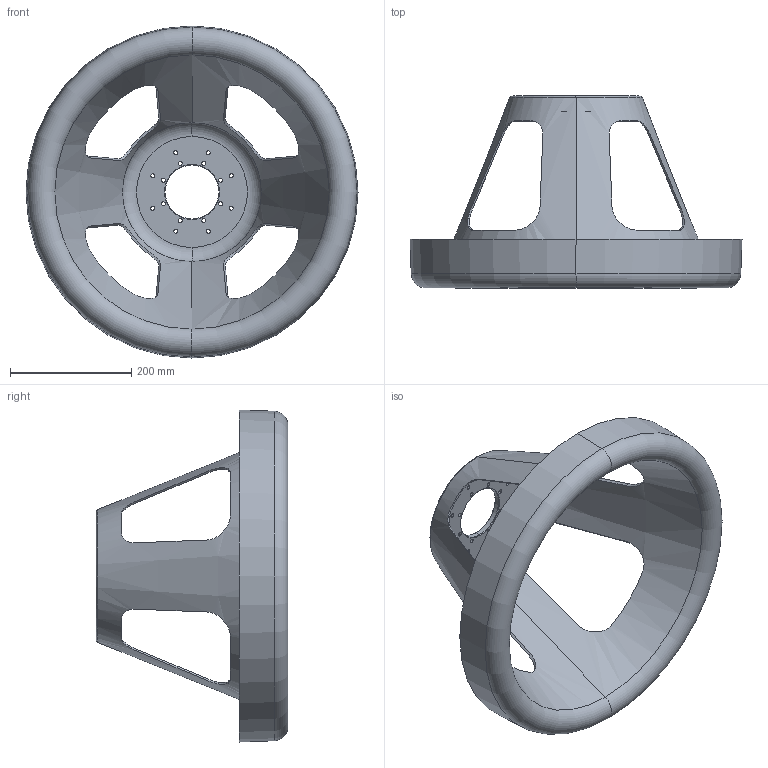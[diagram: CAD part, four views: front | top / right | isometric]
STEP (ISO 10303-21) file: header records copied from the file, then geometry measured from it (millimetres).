
FILE_DESCRIPTION(('CATIA V5 STEP Exchange','CAx-IF Rec.Pracs.--- Composite Materials ---3.4---2017-06-13'),'2;1');
FILE_NAME('C:\Users\PM610867\AppData\Local\ST-WORK_R32_PROD\Liasse-PDF\IEM_PEPSI_CEG_DEF_K_1229_236-CONE_INDUCTANCE_DOME-A.stp','2025-02-14T10:16:15+00:00',('none'),('none'),'CATIA Version 5-6 Release 2022 SP2','CATIA V5 STEP AP203 v2','none');
FILE_SCHEMA(('CONFIG_CONTROL_DESIGN'));
Length unit declared in the file: millimetre
Products named in the file (1): IEM PEPSI CEG DEF K 1229 236
Bounding box: 547.04 x 316.1 x 547.04 mm (x, y, z)
Volume: 1860387.1 mm3; surface area: 930093.7 mm2
Topology: 1 solids, 1 shells, 90 faces, 244 edges, 156 vertices
Faces by surface type: cylinder 50, plane 18, torus 12, cone 10
Entity records: 3099 total; most frequent: CARTESIAN_POINT 949, ORIENTED_EDGE 488, DIRECTION 308, EDGE_CURVE 244, AXIS2_PLACEMENT_3D 177, VERTEX_POINT 156, EDGE_LOOP 132, CIRCLE 120
